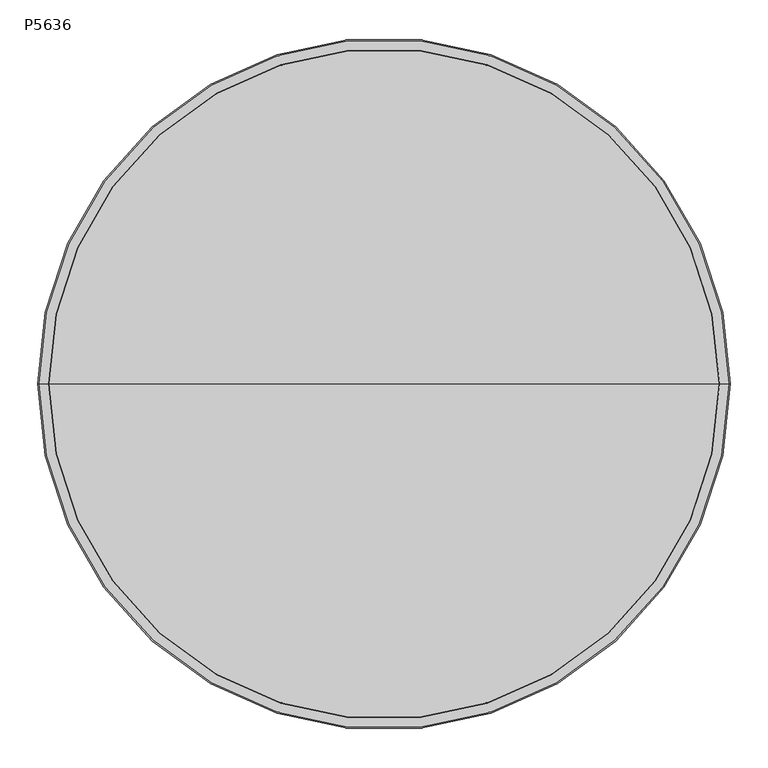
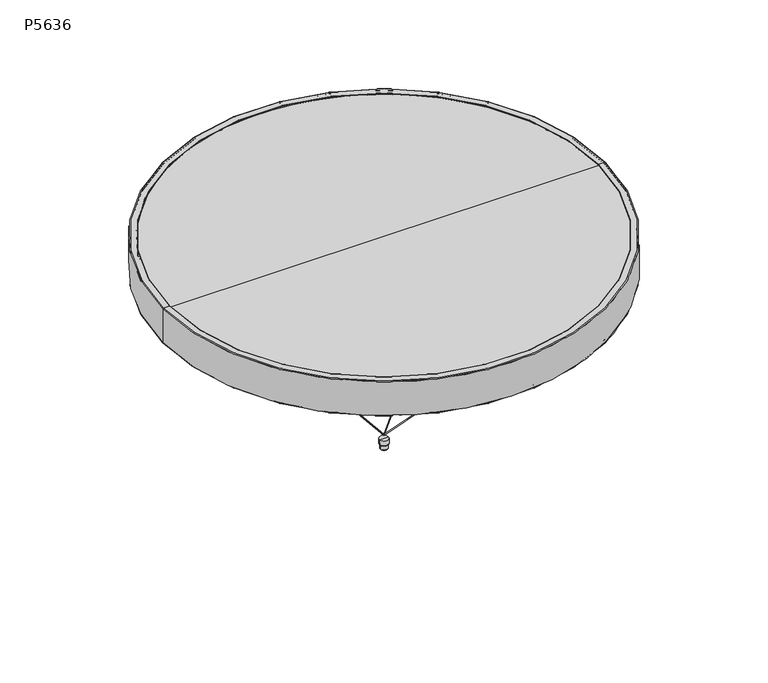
"""IFC4 building model written with IfcOpenShell, lengths in millimetres: light fixture geometry, Impact_Arch_Ltg-waf.r.3 : P5636."""

from ifc_helpers import new_model, si_unit, point, frame, origin, place, context, project, spatial, polyline, circle_curve, ellipse_curve, trimmed, outline, extrude, source, transform, mapped, element, save
from ifc_brep_helpers import plane_surface, cylinder_surface, revolved_surface, advanced_brep


def p5636_05035a62(model_context):
    return source(origin(), model_context, "Body", "SolidModel", [
        extrude(outline(polyline([(-296.904285, 169.2257198), (-302.2657284, 172.2948892), (-301.5940433, 173.4682366), (-296.2325999, 170.3990672), (-296.904285, 169.2257198)])), frame((0.0, 0.0, 2393.70042), z_axis=(0.0, 0.0, 1.0), x_axis=(1.0, 0.0, 0.0)), (0.0, 0.0, 1.0), 10.7885392),
        advanced_brep(
        [(-294.1449367, 168.3838782, 2400.9999313), (-304.1306911, 174.100244, 2400.9999313), (-304.1306911, 174.100244, 2412.4180289), (-294.1449367, 168.3838782, 2412.4180289), (-294.5817908, 168.6339562, 2400.4965621), (-303.693837, 173.8501659, 2400.4965621), (-299.1378139, 171.2420611, 2400.4965621), (-299.1378139, 171.2420611, 2412.4180289)],
        [
            (0, 1, circle_curve(frame((-299.1378139, 171.2420611, 2400.9999313), z_axis=(0.0, 0.0, 1.0), x_axis=(-0.8678602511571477, 0.49680839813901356, 0.0)), 5.7530889)),
            (1, 2),
            (2, 3, circle_curve(frame((-299.1378139, 171.2420611, 2412.4180289), z_axis=(0.0, 0.0, -1.0), x_axis=(-0.8678602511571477, 0.49680839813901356, 0.0)), 5.7530889)),
            (3, 0),
            (1, 0, circle_curve(frame((-299.1378139, 171.2420611, 2400.9999313), z_axis=(0.0, 0.0, 1.0), x_axis=(-0.8678602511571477, 0.49680839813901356, 0.0)), 5.7530889)),
            (3, 2, circle_curve(frame((-299.1378139, 171.2420611, 2412.4180289), z_axis=(0.0, 0.0, -1.0), x_axis=(-0.8678602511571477, 0.49680839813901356, 0.0)), 5.7530889)),
            (4, 5, circle_curve(frame((-299.1378139, 171.2420611, 2400.4965621), z_axis=(0.0, 0.0, 1.0), x_axis=(-0.8678602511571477, 0.49680839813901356, 0.0)), 5.2497197)),
            (5, 1, circle_curve(frame((-303.693837, 173.8501659, 2400.9999313), z_axis=(0.49680839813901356, 0.8678602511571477, 0.0), x_axis=(0.8678602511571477, -0.49680839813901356, 0.0)), 0.5033692)),
            (0, 4, circle_curve(frame((-294.5817908, 168.6339562, 2400.9999313), z_axis=(0.49680839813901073, 0.8678602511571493, 0.0), x_axis=(-0.8678602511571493, 0.49680839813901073, 0.0)), 0.5033692)),
            (5, 4, circle_curve(frame((-299.1378139, 171.2420611, 2400.4965621), z_axis=(0.0, 0.0, 1.0), x_axis=(-0.8678602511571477, 0.49680839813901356, 0.0)), 5.2497197)),
            (6, 5),
            (4, 6),
            (2, 7),
            (7, 3),
        ],
        [
            cylinder_surface(frame((-299.1378139, 171.2420611, 2414.2748214), z_axis=(0.0, 0.0, -1.0), x_axis=(-0.8678602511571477, 0.49680839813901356, 0.0)), 5.7530889),
            revolved_surface(trimmed(ellipse_curve(frame((-303.693837, 173.8501659, 2400.9999313), z_axis=(-0.49680839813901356, -0.8678602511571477, 0.0), x_axis=(0.8678602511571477, -0.49680839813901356, 0.0)), 0.5033692, 0.5033692), [point((-304.1306911, 174.100244, 2400.9999313))], [point((-303.693837, 173.8501659, 2400.4965621))], True, "CARTESIAN"), (-299.1378139, 171.2420611, 2414.2748214), (0.0, 0.0, -1.0)),
            plane_surface(frame((-299.1378139, 171.2420611, 2400.4965621), z_axis=(0.0, 0.0, -1.0), x_axis=(-0.8678602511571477, 0.49680839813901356, 0.0))),
            plane_surface(frame((-299.1378139, 171.2420611, 2412.4180289), z_axis=(0.0, 0.0, 1.0), x_axis=(-0.8678602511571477, 0.49680839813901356, 0.0))),
        ],
        [
            (0, [[1, 2, 3, 4]]),
            (0, [[5, -4, 6, -2]]),
            (1, [[7, 8, -1, 9]]),
            (1, [[10, -9, -5, -8]]),
            (2, [[11, -7, 12]]),
            (2, [[-12, -10, -11]]),
            (3, [[-3, 13, 14]]),
            (3, [[-6, -14, -13]]),
        ],
    ),
        advanced_brep(
        [(-0.4909162, 0.281026, 2046.2396458), (0.4909162, -0.281026, 2047.3533386), (0.0, 0.0, 2046.7964922), (-277.3987743, 158.7975029, 2370.361012), (-276.4169522, 158.2354567, 2371.4746931), (-276.9078632, 158.5164798, 2370.9178526)],
        [
            (0, 1, circle_curve(frame((0.0, 0.0, 2046.7964922), z_axis=(0.60883123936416, -0.3485267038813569, -0.7126385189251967), x_axis=(0.6184706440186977, -0.35404480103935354, 0.7015314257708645)), 0.7937583)),
            (1, 2),
            (2, 0),
            (1, 0, circle_curve(frame((0.0, 0.0, 2046.7964922), z_axis=(0.60883123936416, -0.3485267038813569, -0.7126385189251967), x_axis=(0.6184706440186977, -0.35404480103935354, 0.7015314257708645)), 0.7937583)),
            (3, 4, circle_curve(frame((-276.9078632, 158.5164798, 2370.9178526), z_axis=(0.60883123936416, -0.3485267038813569, -0.7126385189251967), x_axis=(0.6184706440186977, -0.35404480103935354, 0.7015314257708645)), 0.79375)),
            (4, 1),
            (0, 3),
            (4, 3, circle_curve(frame((-276.9078632, 158.5164798, 2370.9178526), z_axis=(0.60883123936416, -0.3485267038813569, -0.7126385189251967), x_axis=(0.6184706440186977, -0.35404480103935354, 0.7015314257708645)), 0.79375)),
            (5, 4),
            (3, 5),
        ],
        [
            plane_surface(frame((0.0, 0.0, 2046.7964922), z_axis=(0.60883123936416, -0.3485267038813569, -0.7126385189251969), x_axis=(0.6184706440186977, -0.35404480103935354, 0.7015314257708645))),
            cylinder_surface(frame((-380.1757258, 217.6323816, 2491.7931491), z_axis=(-0.60883123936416, 0.3485267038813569, 0.7126385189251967), x_axis=(0.6184706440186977, -0.35404480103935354, 0.7015314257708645)), 0.79375),
            plane_surface(frame((-276.9078632, 158.5164798, 2370.9178526), z_axis=(-0.60883123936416, 0.3485267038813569, 0.7126385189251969), x_axis=(0.6184706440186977, -0.35404480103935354, 0.7015314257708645))),
        ],
        [
            (0, [[1, 2, 3]]),
            (0, [[4, -3, -2]]),
            (1, [[5, 6, -1, 7]]),
            (1, [[8, -7, -4, -6]]),
            (2, [[9, -5, 10]]),
            (2, [[-10, -8, -9]]),
        ],
    ),
        advanced_brep(
        [(-278.0124132, 159.1487817, 2369.6649613), (-275.8033133, 157.8841779, 2372.1707438), (-276.9078632, 158.5164798, 2370.9178526), (-282.8450111, 161.9152124, 2375.3215295), (-280.6359113, 160.6506086, 2377.8273121), (-281.7404612, 161.2829105, 2376.5744208)],
        [
            (0, 1, circle_curve(frame((-276.9078632, 158.5164798, 2370.9178526), z_axis=(0.6088312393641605, -0.34852670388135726, -0.712638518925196), x_axis=(0.6184706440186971, -0.35404480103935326, 0.7015314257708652)), 1.7859375)),
            (1, 2),
            (2, 0),
            (1, 0, circle_curve(frame((-276.9078632, 158.5164798, 2370.9178526), z_axis=(0.6088312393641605, -0.34852670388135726, -0.712638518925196), x_axis=(0.6184706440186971, -0.35404480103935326, 0.7015314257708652)), 1.7859375)),
            (3, 4, circle_curve(frame((-281.7404612, 161.2829105, 2376.5744208), z_axis=(0.6088312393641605, -0.34852670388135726, -0.712638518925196), x_axis=(0.6184706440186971, -0.35404480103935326, 0.7015314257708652)), 1.7859375)),
            (4, 1),
            (0, 3),
            (4, 3, circle_curve(frame((-281.7404612, 161.2829105, 2376.5744208), z_axis=(0.6088312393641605, -0.34852670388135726, -0.712638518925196), x_axis=(0.6184706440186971, -0.35404480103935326, 0.7015314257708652)), 1.7859375)),
            (5, 4),
            (3, 5),
        ],
        [
            plane_surface(frame((-276.9078632, 158.5164798, 2370.9178526), z_axis=(0.6088312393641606, -0.3485267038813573, -0.7126385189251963), x_axis=(0.6184706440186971, -0.35404480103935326, 0.7015314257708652))),
            cylinder_surface(frame((-362.9536305, 207.7735575, 2471.6346427), z_axis=(-0.6088312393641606, 0.3485267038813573, 0.7126385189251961), x_axis=(0.6184706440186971, -0.35404480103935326, 0.7015314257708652)), 1.7859375),
            plane_surface(frame((-281.7404612, 161.2829105, 2376.5744208), z_axis=(-0.6088312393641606, 0.3485267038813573, 0.7126385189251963), x_axis=(0.6184706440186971, -0.35404480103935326, 0.7015314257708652))),
        ],
        [
            (0, [[1, 2, 3]]),
            (0, [[4, -3, -2]]),
            (1, [[5, 6, -1, 7]]),
            (1, [[8, -7, -4, -6]]),
            (2, [[9, -5, 10]]),
            (2, [[-10, -8, -9]]),
        ],
    ),
        advanced_brep(
        [(-284.9313832, 163.1095604, 2372.9549571), (-278.5495392, 159.4562606, 2380.1938845), (-281.7404612, 161.2829105, 2376.5744208), (-302.3287359, 173.068711, 2393.3186028), (-295.9468919, 169.4154112, 2400.5575302), (-299.1378139, 171.2420611, 2396.9380665)],
        [
            (0, 1, circle_curve(frame((-281.7404612, 161.2829105, 2376.5744208), z_axis=(0.6088312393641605, -0.34852670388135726, -0.712638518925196), x_axis=(0.6184706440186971, -0.3540448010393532, 0.7015314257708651)), 5.159375)),
            (1, 2),
            (2, 0),
            (1, 0, circle_curve(frame((-281.7404612, 161.2829105, 2376.5744208), z_axis=(0.6088312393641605, -0.34852670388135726, -0.712638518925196), x_axis=(0.6184706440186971, -0.3540448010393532, 0.7015314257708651)), 5.159375)),
            (3, 4, circle_curve(frame((-299.1378139, 171.2420611, 2396.9380665), z_axis=(0.6088312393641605, -0.34852670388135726, -0.712638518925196), x_axis=(0.6184706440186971, -0.3540448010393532, 0.7015314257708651)), 5.159375)),
            (4, 1),
            (0, 3),
            (4, 3, circle_curve(frame((-299.1378139, 171.2420611, 2396.9380665), z_axis=(0.6088312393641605, -0.34852670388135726, -0.712638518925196), x_axis=(0.6184706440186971, -0.3540448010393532, 0.7015314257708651)), 5.159375)),
            (5, 4),
            (3, 5),
        ],
        [
            plane_surface(frame((-281.7404612, 161.2829105, 2376.5744208), z_axis=(0.6088312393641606, -0.3485267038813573, -0.7126385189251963), x_axis=(0.6184706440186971, -0.35404480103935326, 0.7015314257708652))),
            cylinder_surface(frame((-269.0644376, 154.0264945, 2361.7371028), z_axis=(-0.6088312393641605, 0.34852670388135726, 0.712638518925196), x_axis=(0.6184706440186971, -0.3540448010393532, 0.7015314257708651)), 5.159375),
            plane_surface(frame((-299.1378139, 171.2420611, 2396.9380665), z_axis=(-0.6088312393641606, 0.3485267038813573, 0.7126385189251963), x_axis=(0.6184706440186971, -0.35404480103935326, 0.7015314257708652))),
        ],
        [
            (0, [[1, 2, 3]]),
            (0, [[4, -3, -2]]),
            (1, [[5, 6, -1, 7]]),
            (1, [[8, -7, -4, -6]]),
            (2, [[9, -5, 10]]),
            (2, [[-10, -8, -9]]),
        ],
    ),
        extrude(outline(polyline([(294.3688179, 173.5986685), (299.6960381, 176.726863), (300.3806409, 175.5610054), (295.0534207, 172.4328109), (294.3688179, 173.5986685)])), frame((0.0, 0.0, 2393.70042), z_axis=(0.0, 0.0, 1.0), x_axis=(1.0, 0.0, 0.0)), (0.0, 0.0, 1.0), 10.7885392),
        advanced_brep(
        [(292.2673496, 171.6221738, 2400.9999313), (302.1893629, 177.4484746, 2400.9999313), (302.1893629, 177.4484746, 2412.4180289), (292.2673496, 171.6221738, 2412.4180289), (292.7014152, 171.8770613, 2400.4965621), (301.7552973, 177.1935872, 2400.4965621), (297.2283563, 174.5353242, 2400.4965621), (297.2283563, 174.5353242, 2412.4180289)],
        [
            (0, 1, circle_curve(frame((297.2283563, 174.5353242, 2400.9999313), z_axis=(0.0, 0.0, 1.0), x_axis=(0.862320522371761, 0.5063628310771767, 0.0)), 5.7530889)),
            (1, 2),
            (2, 3, circle_curve(frame((297.2283563, 174.5353242, 2412.4180289), z_axis=(0.0, 0.0, -1.0), x_axis=(0.862320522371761, 0.5063628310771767, 0.0)), 5.7530889)),
            (3, 0),
            (1, 0, circle_curve(frame((297.2283563, 174.5353242, 2400.9999313), z_axis=(0.0, 0.0, 1.0), x_axis=(0.862320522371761, 0.5063628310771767, 0.0)), 5.7530889)),
            (3, 2, circle_curve(frame((297.2283563, 174.5353242, 2412.4180289), z_axis=(0.0, 0.0, -1.0), x_axis=(0.862320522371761, 0.5063628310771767, 0.0)), 5.7530889)),
            (4, 5, circle_curve(frame((297.2283563, 174.5353242, 2400.4965621), z_axis=(0.0, 0.0, 1.0), x_axis=(0.862320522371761, 0.5063628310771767, 0.0)), 5.2497197)),
            (5, 1, circle_curve(frame((301.7552973, 177.1935872, 2400.9999313), z_axis=(0.5063628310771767, -0.862320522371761, 0.0), x_axis=(-0.862320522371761, -0.5063628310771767, 0.0)), 0.5033692)),
            (0, 4, circle_curve(frame((292.7014152, 171.8770613, 2400.9999313), z_axis=(0.5063628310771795, -0.8623205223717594, 0.0), x_axis=(0.8623205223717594, 0.5063628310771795, 0.0)), 0.5033692)),
            (5, 4, circle_curve(frame((297.2283563, 174.5353242, 2400.4965621), z_axis=(0.0, 0.0, 1.0), x_axis=(0.862320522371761, 0.5063628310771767, 0.0)), 5.2497197)),
            (6, 5),
            (4, 6),
            (2, 7),
            (7, 3),
        ],
        [
            cylinder_surface(frame((297.2283563, 174.5353242, 2414.2748214), z_axis=(0.0, 0.0, -1.0), x_axis=(0.862320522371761, 0.5063628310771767, 0.0)), 5.7530889),
            revolved_surface(trimmed(ellipse_curve(frame((301.7552973, 177.1935872, 2400.9999313), z_axis=(-0.5063628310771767, 0.862320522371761, 0.0), x_axis=(-0.862320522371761, -0.5063628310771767, 0.0)), 0.5033692, 0.5033692), [point((302.1893629, 177.4484746, 2400.9999313))], [point((301.7552973, 177.1935872, 2400.4965621))], True, "CARTESIAN"), (297.2283563, 174.5353242, 2414.2748214), (0.0, 0.0, -1.0)),
            plane_surface(frame((297.2283563, 174.5353242, 2400.4965621), z_axis=(0.0, 0.0, -1.0000000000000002), x_axis=(0.862320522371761, 0.5063628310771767, 0.0))),
            plane_surface(frame((297.2283563, 174.5353242, 2412.4180289), z_axis=(0.0, 0.0, 1.0000000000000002), x_axis=(0.862320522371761, 0.5063628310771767, 0.0))),
        ],
        [
            (0, [[1, 2, 3, 4]]),
            (0, [[5, -4, 6, -2]]),
            (1, [[7, 8, -1, 9]]),
            (1, [[10, -9, -5, -8]]),
            (2, [[11, -7, 12]]),
            (2, [[-12, -10, -11]]),
            (3, [[-3, 13, 14]]),
            (3, [[-6, -14, -13]]),
        ],
    ),
        advanced_brep(
        [(0.4877826, 0.2864306, 2046.2396458), (-0.4877826, -0.2864306, 2047.3533386), (0.0, 0.0, 2046.7964922), (275.6280814, 161.8514369, 2370.361012), (274.6525265, 161.2785817, 2371.4746931), (275.1403039, 161.5650093, 2370.9178526)],
        [
            (0, 1, circle_curve(frame((0.0, 0.0, 2046.7964922), z_axis=(-0.6049449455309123, -0.35522943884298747, -0.7126385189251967), x_axis=(-0.6145228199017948, -0.3608536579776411, 0.7015314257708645)), 0.7937583)),
            (1, 2),
            (2, 0),
            (1, 0, circle_curve(frame((0.0, 0.0, 2046.7964922), z_axis=(-0.6049449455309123, -0.35522943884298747, -0.7126385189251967), x_axis=(-0.6145228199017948, -0.3608536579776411, 0.7015314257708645)), 0.7937583)),
            (3, 4, circle_curve(frame((275.1403039, 161.5650093, 2370.9178526), z_axis=(-0.6049449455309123, -0.35522943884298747, -0.7126385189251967), x_axis=(-0.6145228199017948, -0.3608536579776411, 0.7015314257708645)), 0.79375)),
            (4, 1),
            (0, 3),
            (4, 3, circle_curve(frame((275.1403039, 161.5650093, 2370.9178526), z_axis=(-0.6049449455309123, -0.35522943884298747, -0.7126385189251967), x_axis=(-0.6145228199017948, -0.3608536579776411, 0.7015314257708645)), 0.79375)),
            (5, 4),
            (3, 5),
        ],
        [
            plane_surface(frame((0.0, 0.0, 2046.7964922), z_axis=(-0.6049449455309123, -0.35522943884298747, -0.7126385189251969), x_axis=(-0.6145228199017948, -0.3608536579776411, 0.7015314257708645))),
            cylinder_surface(frame((377.7489867, 221.817806, 2491.7931491), z_axis=(0.6049449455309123, 0.35522943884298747, 0.7126385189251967), x_axis=(-0.6145228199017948, -0.3608536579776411, 0.7015314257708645)), 0.79375),
            plane_surface(frame((275.1403039, 161.5650093, 2370.9178526), z_axis=(0.6049449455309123, 0.35522943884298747, 0.7126385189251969), x_axis=(-0.6145228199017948, -0.3608536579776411, 0.7015314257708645))),
        ],
        [
            (0, [[1, 2, 3]]),
            (0, [[4, -3, -2]]),
            (1, [[5, 6, -1, 7]]),
            (1, [[8, -7, -4, -6]]),
            (2, [[9, -5, 10]]),
            (2, [[-10, -8, -9]]),
        ],
    ),
        advanced_brep(
        [(276.2378033, 162.2094714, 2369.6649613), (274.0428046, 160.9205473, 2372.1707438), (275.1403039, 161.5650093, 2370.9178526), (281.0395538, 165.0291051, 2375.3215295), (278.8445551, 163.7401809, 2377.8273121), (279.9420545, 164.384643, 2376.5744208)],
        [
            (0, 1, circle_curve(frame((275.1403039, 161.5650093, 2370.9178526), z_axis=(-0.6049449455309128, -0.3552294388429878, -0.712638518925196), x_axis=(-0.6145228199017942, -0.3608536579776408, 0.7015314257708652)), 1.7859375)),
            (1, 2),
            (2, 0),
            (1, 0, circle_curve(frame((275.1403039, 161.5650093, 2370.9178526), z_axis=(-0.6049449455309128, -0.3552294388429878, -0.712638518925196), x_axis=(-0.6145228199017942, -0.3608536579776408, 0.7015314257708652)), 1.7859375)),
            (3, 4, circle_curve(frame((279.9420545, 164.384643, 2376.5744208), z_axis=(-0.6049449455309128, -0.3552294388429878, -0.712638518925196), x_axis=(-0.6145228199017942, -0.3608536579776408, 0.7015314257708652)), 1.7859375)),
            (4, 1),
            (0, 3),
            (4, 3, circle_curve(frame((279.9420545, 164.384643, 2376.5744208), z_axis=(-0.6049449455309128, -0.3552294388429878, -0.712638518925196), x_axis=(-0.6145228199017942, -0.3608536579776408, 0.7015314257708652)), 1.7859375)),
            (5, 4),
            (3, 5),
        ],
        [
            plane_surface(frame((275.1403039, 161.5650093, 2370.9178526), z_axis=(-0.6049449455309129, -0.35522943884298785, -0.7126385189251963), x_axis=(-0.6145228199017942, -0.3608536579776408, 0.7015314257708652))),
            cylinder_surface(frame((360.6368235, 211.7693807, 2471.6346427), z_axis=(0.6049449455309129, 0.35522943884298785, 0.7126385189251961), x_axis=(-0.6145228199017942, -0.3608536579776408, 0.7015314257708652)), 1.7859375),
            plane_surface(frame((279.9420545, 164.384643, 2376.5744208), z_axis=(0.6049449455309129, 0.35522943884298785, 0.7126385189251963), x_axis=(-0.6145228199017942, -0.3608536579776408, 0.7015314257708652))),
        ],
        [
            (0, [[1, 2, 3]]),
            (0, [[4, -3, -2]]),
            (1, [[5, 6, -1, 7]]),
            (1, [[8, -7, -4, -6]]),
            (2, [[9, -5, 10]]),
            (2, [[-10, -8, -9]]),
        ],
    ),
        advanced_brep(
        [(283.1126081, 166.2464224, 2372.9549571), (276.7715008, 162.5228637, 2380.1938845), (279.9420545, 164.384643, 2376.5744208), (300.3989099, 176.3971036, 2393.3186028), (294.0578026, 172.6735449, 2400.5575302), (297.2283563, 174.5353242, 2396.9380665)],
        [
            (0, 1, circle_curve(frame((279.9420545, 164.384643, 2376.5744208), z_axis=(-0.6049449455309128, -0.3552294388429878, -0.712638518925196), x_axis=(-0.6145228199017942, -0.36085365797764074, 0.7015314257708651)), 5.159375)),
            (1, 2),
            (2, 0),
            (1, 0, circle_curve(frame((279.9420545, 164.384643, 2376.5744208), z_axis=(-0.6049449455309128, -0.3552294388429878, -0.712638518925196), x_axis=(-0.6145228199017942, -0.36085365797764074, 0.7015314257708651)), 5.159375)),
            (3, 4, circle_curve(frame((297.2283563, 174.5353242, 2396.9380665), z_axis=(-0.6049449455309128, -0.3552294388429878, -0.712638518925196), x_axis=(-0.6145228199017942, -0.36085365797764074, 0.7015314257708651)), 5.159375)),
            (4, 1),
            (0, 3),
            (4, 3, circle_curve(frame((297.2283563, 174.5353242, 2396.9380665), z_axis=(-0.6049449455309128, -0.3552294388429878, -0.712638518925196), x_axis=(-0.6145228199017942, -0.36085365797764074, 0.7015314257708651)), 5.159375)),
            (5, 4),
            (3, 5),
        ],
        [
            plane_surface(frame((279.9420545, 164.384643, 2376.5744208), z_axis=(-0.6049449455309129, -0.35522943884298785, -0.7126385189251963), x_axis=(-0.6145228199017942, -0.3608536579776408, 0.7015314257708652))),
            cylinder_surface(frame((267.3469445, 156.9886744, 2361.7371028), z_axis=(0.6049449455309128, 0.3552294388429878, 0.712638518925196), x_axis=(-0.6145228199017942, -0.36085365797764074, 0.7015314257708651)), 5.159375),
            plane_surface(frame((297.2283563, 174.5353242, 2396.9380665), z_axis=(0.6049449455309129, 0.35522943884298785, 0.7126385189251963), x_axis=(-0.6145228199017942, -0.3608536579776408, 0.7015314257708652))),
        ],
        [
            (0, [[1, 2, 3]]),
            (0, [[4, -3, -2]]),
            (1, [[5, 6, -1, 7]]),
            (1, [[8, -7, -4, -6]]),
            (2, [[9, -5, 10]]),
            (2, [[-10, -8, -9]]),
        ],
    ),
        extrude(outline(polyline([(0.6402665, -341.7441861), (0.6402665, -347.9219589), (-0.7117338, -347.9219589), (-0.7117338, -341.7441861), (0.6402665, -341.7441861)])), frame((0.0, 0.0, 2393.70042), z_axis=(0.0, 0.0, 1.0), x_axis=(1.0, 0.0, 0.0)), (0.0, 0.0, 1.0), 10.7885392),
        advanced_brep(
        [(0.0, -338.9312234, 2400.9999313), (0.0, -350.4374013, 2400.9999313), (0.0, -350.4374013, 2412.4180289), (0.0, -338.9312234, 2412.4180289), (0.0, -339.4345926, 2400.4965621), (0.0, -349.9340321, 2400.4965621), (0.0, -344.6843123, 2400.4965621), (0.0, -344.6843123, 2412.4180289)],
        [
            (0, 1, circle_curve(frame((0.0, -344.6843123, 2400.9999313), z_axis=(0.0, 0.0, 1.0), x_axis=(0.0, -1.0, 0.0)), 5.7530889)),
            (1, 2),
            (2, 3, circle_curve(frame((0.0, -344.6843123, 2412.4180289), z_axis=(0.0, 0.0, -1.0), x_axis=(0.0, -1.0, 0.0)), 5.7530889)),
            (3, 0),
            (1, 0, circle_curve(frame((0.0, -344.6843123, 2400.9999313), z_axis=(0.0, 0.0, 1.0), x_axis=(0.0, -1.0, 0.0)), 5.7530889)),
            (3, 2, circle_curve(frame((0.0, -344.6843123, 2412.4180289), z_axis=(0.0, 0.0, -1.0), x_axis=(0.0, -1.0, 0.0)), 5.7530889)),
            (4, 5, circle_curve(frame((0.0, -344.6843123, 2400.4965621), z_axis=(0.0, 0.0, 1.0), x_axis=(0.0, -1.0, 0.0)), 5.2497197)),
            (5, 1, circle_curve(frame((0.0, -349.9340321, 2400.9999313), z_axis=(-1.0, 0.0, 0.0), x_axis=(0.0, 1.0, 0.0)), 0.5033692)),
            (0, 4, circle_curve(frame((0.0, -339.4345926, 2400.9999313), z_axis=(-1.0, 0.0, 0.0), x_axis=(0.0, -1.0, 0.0)), 0.5033692)),
            (5, 4, circle_curve(frame((0.0, -344.6843123, 2400.4965621), z_axis=(0.0, 0.0, 1.0), x_axis=(0.0, -1.0, 0.0)), 5.2497197)),
            (6, 5),
            (4, 6),
            (2, 7),
            (7, 3),
        ],
        [
            cylinder_surface(frame((0.0, -344.6843123, 2414.2748214), z_axis=(0.0, 0.0, -1.0), x_axis=(0.0, -1.0, 0.0)), 5.7530889),
            revolved_surface(trimmed(ellipse_curve(frame((0.0, -349.9340321, 2400.9999313), z_axis=(1.0, 0.0, 0.0), x_axis=(0.0, 1.0, 0.0)), 0.5033692, 0.5033692), [point((0.0, -350.4374013, 2400.9999313))], [point((0.0, -349.9340321, 2400.4965621))], True, "CARTESIAN"), (0.0, -344.6843123, 2414.2748214), (0.0, 0.0, -1.0)),
            plane_surface(frame((0.0, -344.6843123, 2400.4965621), z_axis=(0.0, 0.0, -1.0), x_axis=(0.0, -1.0, 0.0))),
            plane_surface(frame((0.0, -344.6843123, 2412.4180289), z_axis=(0.0, 0.0, 1.0), x_axis=(0.0, -1.0, 0.0))),
        ],
        [
            (0, [[1, 2, 3, 4]]),
            (0, [[5, -4, 6, -2]]),
            (1, [[7, 8, -1, 9]]),
            (1, [[10, -9, -5, -8]]),
            (2, [[11, -7, 12]]),
            (2, [[-12, -10, -11]]),
            (3, [[-3, 13, 14]]),
            (3, [[-6, -14, -13]]),
        ],
    ),
        advanced_brep(
        [(0.0, -0.5656628, 2046.2396458), (0.0, 0.5656628, 2047.3533386), (0.0, 0.0, 2046.7964922), (0.0, -319.635303, 2370.361012), (0.0, -318.5039893, 2371.4746931), (0.0, -319.0696462, 2370.9178526)],
        [
            (0, 1, circle_curve(frame((0.0, 0.0, 2046.7964922), z_axis=(0.0, 0.7015314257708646, -0.7126385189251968), x_axis=(0.0, 0.7126385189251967, 0.7015314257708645)), 0.7937583)),
            (1, 2),
            (2, 0),
            (1, 0, circle_curve(frame((0.0, 0.0, 2046.7964922), z_axis=(0.0, 0.7015314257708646, -0.7126385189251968), x_axis=(0.0, 0.7126385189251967, 0.7015314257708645)), 0.7937583)),
            (3, 4, circle_curve(frame((0.0, -319.0696462, 2370.9178526), z_axis=(0.0, 0.7015314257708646, -0.7126385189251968), x_axis=(0.0, 0.7126385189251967, 0.7015314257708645)), 0.79375)),
            (4, 1),
            (0, 3),
            (4, 3, circle_curve(frame((0.0, -319.0696462, 2370.9178526), z_axis=(0.0, 0.7015314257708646, -0.7126385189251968), x_axis=(0.0, 0.7126385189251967, 0.7015314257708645)), 0.79375)),
            (5, 4),
            (3, 5),
        ],
        [
            plane_surface(frame((0.0, 0.0, 2046.7964922), z_axis=(0.0, 0.7015314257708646, -0.7126385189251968), x_axis=(0.0, 0.7126385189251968, 0.7015314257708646))),
            cylinder_surface(frame((0.0, -438.0609957, 2491.7931491), z_axis=(0.0, -0.7015314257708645, 0.7126385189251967), x_axis=(0.0, 0.7126385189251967, 0.7015314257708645)), 0.79375),
            plane_surface(frame((0.0, -319.0696462, 2370.9178526), z_axis=(0.0, -0.7015314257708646, 0.7126385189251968), x_axis=(0.0, 0.7126385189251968, 0.7015314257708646))),
        ],
        [
            (0, [[1, 2, 3]]),
            (0, [[4, -3, -2]]),
            (1, [[5, 6, -1, 7]]),
            (1, [[8, -7, -4, -6]]),
            (2, [[9, -5, 10]]),
            (2, [[-10, -8, -9]]),
        ],
    ),
        advanced_brep(
        [(0.0, -320.342374, 2369.6649613), (0.0, -317.7969183, 2372.1707438), (0.0, -319.0696462, 2370.9178526), (0.0, -325.9107797, 2375.3215295), (0.0, -323.365324, 2377.8273121), (0.0, -324.6380518, 2376.5744208)],
        [
            (0, 1, circle_curve(frame((0.0, -319.0696462, 2370.9178526), z_axis=(0.0, 0.7015314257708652, -0.7126385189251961), x_axis=(0.0, 0.7126385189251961, 0.7015314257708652)), 1.7859375)),
            (1, 2),
            (2, 0),
            (1, 0, circle_curve(frame((0.0, -319.0696462, 2370.9178526), z_axis=(0.0, 0.7015314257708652, -0.7126385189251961), x_axis=(0.0, 0.7126385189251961, 0.7015314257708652)), 1.7859375)),
            (3, 4, circle_curve(frame((0.0, -324.6380518, 2376.5744208), z_axis=(0.0, 0.7015314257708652, -0.7126385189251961), x_axis=(0.0, 0.7126385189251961, 0.7015314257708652)), 1.7859375)),
            (4, 1),
            (0, 3),
            (4, 3, circle_curve(frame((0.0, -324.6380518, 2376.5744208), z_axis=(0.0, 0.7015314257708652, -0.7126385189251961), x_axis=(0.0, 0.7126385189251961, 0.7015314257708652)), 1.7859375)),
            (5, 4),
            (3, 5),
        ],
        [
            plane_surface(frame((0.0, -319.0696462, 2370.9178526), z_axis=(0.0, 0.7015314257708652, -0.7126385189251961), x_axis=(0.0, 0.7126385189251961, 0.7015314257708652))),
            cylinder_surface(frame((0.0, -418.2166772, 2471.6346427), z_axis=(0.0, -0.7015314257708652, 0.7126385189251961), x_axis=(0.0, 0.7126385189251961, 0.7015314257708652)), 1.7859375),
            plane_surface(frame((0.0, -324.6380518, 2376.5744208), z_axis=(0.0, -0.7015314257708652, 0.7126385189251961), x_axis=(0.0, 0.7126385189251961, 0.7015314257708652))),
        ],
        [
            (0, [[1, 2, 3]]),
            (0, [[4, -3, -2]]),
            (1, [[5, 6, -1, 7]]),
            (1, [[8, -7, -4, -6]]),
            (2, [[9, -5, 10]]),
            (2, [[-10, -8, -9]]),
        ],
    ),
        advanced_brep(
        [(0.0, -328.3148212, 2372.9549571), (0.0, -320.9612825, 2380.1938845), (0.0, -324.6380518, 2376.5744208), (0.0, -348.3610817, 2393.3186028), (0.0, -341.007543, 2400.5575302), (0.0, -344.6843123, 2396.9380665)],
        [
            (0, 1, circle_curve(frame((0.0, -324.6380518, 2376.5744208), z_axis=(0.0, 0.7015314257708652, -0.7126385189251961), x_axis=(0.0, 0.712638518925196, 0.7015314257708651)), 5.159375)),
            (1, 2),
            (2, 0),
            (1, 0, circle_curve(frame((0.0, -324.6380518, 2376.5744208), z_axis=(0.0, 0.7015314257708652, -0.7126385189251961), x_axis=(0.0, 0.712638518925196, 0.7015314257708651)), 5.159375)),
            (3, 4, circle_curve(frame((0.0, -344.6843123, 2396.9380665), z_axis=(0.0, 0.7015314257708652, -0.7126385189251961), x_axis=(0.0, 0.712638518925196, 0.7015314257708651)), 5.159375)),
            (4, 1),
            (0, 3),
            (4, 3, circle_curve(frame((0.0, -344.6843123, 2396.9380665), z_axis=(0.0, 0.7015314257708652, -0.7126385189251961), x_axis=(0.0, 0.712638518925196, 0.7015314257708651)), 5.159375)),
            (5, 4),
            (3, 5),
        ],
        [
            plane_surface(frame((0.0, -324.6380518, 2376.5744208), z_axis=(0.0, 0.7015314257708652, -0.7126385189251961), x_axis=(0.0, 0.7126385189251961, 0.7015314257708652))),
            cylinder_surface(frame((0.0, -310.0319864, 2361.7371028), z_axis=(0.0, -0.7015314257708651, 0.712638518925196), x_axis=(0.0, 0.712638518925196, 0.7015314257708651)), 5.159375),
            plane_surface(frame((0.0, -344.6843123, 2396.9380665), z_axis=(0.0, -0.7015314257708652, 0.7126385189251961), x_axis=(0.0, 0.7126385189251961, 0.7015314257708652))),
        ],
        [
            (0, [[1, 2, 3]]),
            (0, [[4, -3, -2]]),
            (1, [[5, 6, -1, 7]]),
            (1, [[8, -7, -4, -6]]),
            (2, [[9, -5, 10]]),
            (2, [[-10, -8, -9]]),
        ],
    ),
        advanced_brep(
        [(-454.6242615, 0.0, 2413.762), (454.6242615, 0.0, 2413.762), (454.6242615, 0.0, 2411.6538), (-454.6242615, 0.0, 2411.6538), (0.0, 0.0, 2411.6538), (0.0, 0.0, 2413.762)],
        [
            (0, 1, circle_curve(frame((0.0, 0.0, 2413.762), z_axis=(0.0, 0.0, -1.0), x_axis=(1.0, 0.0, 0.0)), 454.6242615)),
            (1, 2),
            (2, 3, circle_curve(frame((0.0, 0.0, 2411.6538), z_axis=(0.0, 0.0, 1.0), x_axis=(1.0, 0.0, 0.0)), 454.6242615)),
            (3, 0),
            (1, 0, circle_curve(frame((0.0, 0.0, 2413.762), z_axis=(0.0, 0.0, -1.0), x_axis=(1.0, 0.0, 0.0)), 454.6242615)),
            (3, 2, circle_curve(frame((0.0, 0.0, 2411.6538), z_axis=(0.0, 0.0, 1.0), x_axis=(1.0, 0.0, 0.0)), 454.6242615)),
            (2, 4),
            (4, 3),
            (5, 1),
            (0, 5),
        ],
        [
            cylinder_surface(frame((0.0, 0.0, 2414.8788161), z_axis=(0.0, 0.0, 1.0), x_axis=(1.0, 0.0, 0.0)), 454.6242615),
            plane_surface(frame((0.0, 0.0, 2411.6538), z_axis=(0.0, 0.0, -1.0), x_axis=(1.0, 0.0, 0.0))),
            plane_surface(frame((0.0, 0.0, 2413.762), z_axis=(0.0, 0.0, 1.0), x_axis=(1.0, 0.0, 0.0))),
        ],
        [
            (0, [[1, 2, 3, 4]]),
            (0, [[5, -4, 6, -2]]),
            (1, [[-3, 7, 8]]),
            (1, [[-6, -8, -7]]),
            (2, [[9, -1, 10]]),
            (2, [[-10, -5, -9]]),
        ],
    ),
        advanced_brep(
        [(-444.696004, 0.0, 2481.326), (444.696004, 0.0, 2481.326), (444.696004, 0.0, 2478.3288), (-444.696004, 0.0, 2478.3288), (0.0, 0.0, 2481.326), (0.0, 0.0, 2478.3288)],
        [
            (0, 1, circle_curve(frame((0.0, 0.0, 2481.326), z_axis=(0.0, 0.0, -1.0), x_axis=(1.0, 0.0, 0.0)), 444.696004)),
            (1, 2),
            (2, 3, circle_curve(frame((0.0, 0.0, 2478.3288), z_axis=(0.0, 0.0, 1.0), x_axis=(1.0, 0.0, 0.0)), 444.696004)),
            (3, 0),
            (1, 0, circle_curve(frame((0.0, 0.0, 2481.326), z_axis=(0.0, 0.0, -1.0), x_axis=(1.0, 0.0, 0.0)), 444.696004)),
            (3, 2, circle_curve(frame((0.0, 0.0, 2478.3288), z_axis=(0.0, 0.0, 1.0), x_axis=(1.0, 0.0, 0.0)), 444.696004)),
            (4, 1),
            (0, 4),
            (2, 5),
            (5, 3),
        ],
        [
            cylinder_surface(frame((0.0, 0.0, 2490.7870462), z_axis=(0.0, 0.0, 1.0), x_axis=(1.0, 0.0, 0.0)), 444.696004),
            plane_surface(frame((0.0, 0.0, 2481.326), z_axis=(0.0, 0.0, 1.0), x_axis=(1.0, 0.0, 0.0))),
            plane_surface(frame((0.0, 0.0, 2478.3288), z_axis=(0.0, 0.0, -1.0), x_axis=(1.0, 0.0, 0.0))),
        ],
        [
            (0, [[1, 2, 3, 4]]),
            (0, [[5, -4, 6, -2]]),
            (1, [[7, -1, 8]]),
            (1, [[-8, -5, -7]]),
            (2, [[-3, 9, 10]]),
            (2, [[-6, -10, -9]]),
        ],
    ),
        advanced_brep(
        [(-300.0172196, 0.0, 2411.1323751), (300.0172196, 0.0, 2411.1323751), (301.6709682, 0.0, 2411.6538), (-301.6709682, 0.0, 2411.6538), (-256.6098362, 0.0, 2380.7381979), (256.6098362, 0.0, 2380.7381979), (-255.0912831, 0.0, 2380.2594), (255.0912831, 0.0, 2380.2594), (0.0, 0.0, 2380.2594), (-255.5511841, 0.0, 2378.6338), (255.5511841, 0.0, 2378.6338), (0.0, 0.0, 2378.6338), (-257.2053499, 0.0, 2379.1553565), (257.2053499, 0.0, 2379.1553565), (-300.8404931, 0.0, 2409.7090127), (300.8404931, 0.0, 2409.7090127), (-301.8528259, 0.0, 2410.0282), (301.8528259, 0.0, 2410.0282), (-314.325, 0.0, 2410.0282), (314.325, 0.0, 2410.0282), (-314.325, 0.0, 2411.6538), (314.325, 0.0, 2411.6538)],
        [
            (0, 1, circle_curve(frame((0.0, 0.0, 2411.1323751), z_axis=(0.0, 0.0, -1.0), x_axis=(1.0, 0.0, 0.0)), 300.0172196)),
            (1, 2, circle_curve(frame((301.6709682, 0.0, 2408.7705773), z_axis=(0.0, 1.0, 0.0), x_axis=(1.0, 0.0, 0.0)), 2.8832227)),
            (2, 3, circle_curve(frame((0.0, 0.0, 2411.6538), z_axis=(0.0, 0.0, 1.0), x_axis=(1.0, 0.0, 0.0)), 301.6709682)),
            (3, 0, circle_curve(frame((-301.6709682, 0.0, 2408.7705773), z_axis=(0.0, 1.0, 0.0), x_axis=(-1.0, 0.0, 0.0)), 2.8832227)),
            (1, 0, circle_curve(frame((0.0, 0.0, 2411.1323751), z_axis=(0.0, 0.0, -1.0), x_axis=(1.0, 0.0, 0.0)), 300.0172196)),
            (3, 2, circle_curve(frame((0.0, 0.0, 2411.6538), z_axis=(0.0, 0.0, 1.0), x_axis=(1.0, 0.0, 0.0)), 301.6709682)),
            (4, 5, circle_curve(frame((0.0, 0.0, 2380.7381979), z_axis=(0.0, 0.0, -1.0), x_axis=(1.0, 0.0, 0.0)), 256.6098362)),
            (5, 1),
            (0, 4),
            (5, 4, circle_curve(frame((0.0, 0.0, 2380.7381979), z_axis=(0.0, 0.0, -1.0), x_axis=(1.0, 0.0, 0.0)), 256.6098362)),
            (6, 7, circle_curve(frame((0.0, 0.0, 2380.2594), z_axis=(0.0, 0.0, -1.0), x_axis=(1.0, 0.0, 0.0)), 255.0912831)),
            (7, 5, circle_curve(frame((255.0912831, 0.0, 2382.9069165), z_axis=(0.0, -1.0, 0.0), x_axis=(1.0, 0.0, 0.0)), 2.6475165)),
            (4, 6, circle_curve(frame((-255.0912831, 0.0, 2382.9069165), z_axis=(0.0, -1.0, 0.0), x_axis=(-1.0, 0.0, 0.0)), 2.6475165)),
            (7, 6, circle_curve(frame((0.0, 0.0, 2380.2594), z_axis=(0.0, 0.0, -1.0), x_axis=(1.0, 0.0, 0.0)), 255.0912831)),
            (8, 7),
            (6, 8),
            (9, 10, circle_curve(frame((0.0, 0.0, 2378.6338), z_axis=(0.0, 0.0, -1.0), x_axis=(1.0, 0.0, 0.0)), 255.5511841)),
            (10, 11),
            (11, 9),
            (10, 9, circle_curve(frame((0.0, 0.0, 2378.6338), z_axis=(0.0, 0.0, -1.0), x_axis=(1.0, 0.0, 0.0)), 255.5511841)),
            (12, 13, circle_curve(frame((0.0, 0.0, 2379.1553565), z_axis=(0.0, 0.0, -1.0), x_axis=(1.0, 0.0, 0.0)), 257.2053499)),
            (13, 10, circle_curve(frame((255.5511841, 0.0, 2381.51775), z_axis=(0.0, 1.0, 0.0), x_axis=(1.0, 0.0, 0.0)), 2.88395)),
            (9, 12, circle_curve(frame((-255.5511841, 0.0, 2381.51775), z_axis=(0.0, 1.0, 0.0), x_axis=(-1.0, 0.0, 0.0)), 2.88395)),
            (13, 12, circle_curve(frame((0.0, 0.0, 2379.1553565), z_axis=(0.0, 0.0, -1.0), x_axis=(1.0, 0.0, 0.0)), 257.2053499)),
            (14, 15, circle_curve(frame((0.0, 0.0, 2409.7090127), z_axis=(0.0, 0.0, -1.0), x_axis=(1.0, 0.0, 0.0)), 300.8404931)),
            (15, 13),
            (12, 14),
            (15, 14, circle_curve(frame((0.0, 0.0, 2409.7090127), z_axis=(0.0, 0.0, -1.0), x_axis=(1.0, 0.0, 0.0)), 300.8404931)),
            (16, 17, circle_curve(frame((0.0, 0.0, 2410.0282), z_axis=(0.0, 0.0, -1.0), x_axis=(1.0, 0.0, 0.0)), 301.8528259)),
            (17, 15, circle_curve(frame((301.8528259, 0.0, 2408.2632517), z_axis=(0.0, -1.0, 0.0), x_axis=(1.0, 0.0, 0.0)), 1.7649483)),
            (14, 16, circle_curve(frame((-301.8528259, 0.0, 2408.2632517), z_axis=(0.0, -1.0, 0.0), x_axis=(-1.0, 0.0, 0.0)), 1.7649483)),
            (17, 16, circle_curve(frame((0.0, 0.0, 2410.0282), z_axis=(0.0, 0.0, -1.0), x_axis=(1.0, 0.0, 0.0)), 301.8528259)),
            (18, 19, circle_curve(frame((0.0, 0.0, 2410.0282), z_axis=(0.0, 0.0, -1.0), x_axis=(1.0, 0.0, 0.0)), 314.325)),
            (19, 17),
            (16, 18),
            (19, 18, circle_curve(frame((0.0, 0.0, 2410.0282), z_axis=(0.0, 0.0, -1.0), x_axis=(1.0, 0.0, 0.0)), 314.325)),
            (20, 21, circle_curve(frame((0.0, 0.0, 2411.6538), z_axis=(0.0, 0.0, -1.0), x_axis=(1.0, 0.0, 0.0)), 314.325)),
            (21, 19),
            (18, 20),
            (21, 20, circle_curve(frame((0.0, 0.0, 2411.6538), z_axis=(0.0, 0.0, -1.0), x_axis=(1.0, 0.0, 0.0)), 314.325)),
            (2, 21),
            (20, 3),
        ],
        [
            revolved_surface(trimmed(ellipse_curve(frame((301.6709682, 0.0, 2408.7705773), z_axis=(0.0, -1.0, 0.0), x_axis=(1.0, 0.0, 0.0)), 2.8832227, 2.8832227), [point((301.6709682, 0.0, 2411.6538))], [point((300.0172196, 0.0, 2411.1323751))], True, "CARTESIAN"), (0.0, 0.0, 2396.5535), (0.0, 0.0, 1.0)),
            revolved_surface(polyline([(300.0172196, 0.0, 2411.1323751), (256.6098362, 0.0, 2380.7381979)]), (0.0, 0.0, 2396.5535), (0.0, 0.0, 1.0)),
            revolved_surface(trimmed(ellipse_curve(frame((255.0912831, 0.0, 2382.9069165), z_axis=(0.0, 1.0, 0.0), x_axis=(1.0, 0.0, 0.0)), 2.6475165, 2.6475165), [point((256.6098362, 0.0, 2380.7381979))], [point((255.0912831, 0.0, 2380.2594))], True, "CARTESIAN"), (0.0, 0.0, 2396.5535), (0.0, 0.0, 1.0)),
            plane_surface(frame((0.0, 0.0, 2380.2594), z_axis=(0.0, 0.0, 1.0), x_axis=(1.0, 0.0, 0.0))),
            plane_surface(frame((0.0, 0.0, 2378.6338), z_axis=(0.0, 0.0, -1.0), x_axis=(1.0, 0.0, 0.0))),
            revolved_surface(trimmed(ellipse_curve(frame((255.5511841, 0.0, 2381.51775), z_axis=(0.0, -1.0, 0.0), x_axis=(1.0, 0.0, 0.0)), 2.88395, 2.88395), [point((255.5511841, 0.0, 2378.6338))], [point((257.2053499, 0.0, 2379.1553565))], True, "CARTESIAN"), (0.0, 0.0, 2396.5535), (0.0, 0.0, 1.0)),
            revolved_surface(polyline([(257.2053499, 0.0, 2379.1553565), (300.8404931, 0.0, 2409.7090127)]), (0.0, 0.0, 2396.5535), (0.0, 0.0, 1.0)),
            revolved_surface(trimmed(ellipse_curve(frame((301.8528259, 0.0, 2408.2632517), z_axis=(0.0, 1.0, 0.0), x_axis=(1.0, 0.0, 0.0)), 1.7649483, 1.7649483), [point((300.8404931, 0.0, 2409.7090127))], [point((301.8528259, 0.0, 2410.0282))], True, "CARTESIAN"), (0.0, 0.0, 2396.5535), (0.0, 0.0, 1.0)),
            plane_surface(frame((0.0, 0.0, 2410.0282), z_axis=(0.0, 0.0, -1.0), x_axis=(1.0, 0.0, 0.0))),
            cylinder_surface(frame((0.0, 0.0, 2396.5535), z_axis=(0.0, 0.0, 1.0), x_axis=(1.0, 0.0, 0.0)), 314.325),
            plane_surface(frame((0.0, 0.0, 2411.6538), z_axis=(0.0, 0.0, 1.0), x_axis=(1.0, 0.0, 0.0))),
        ],
        [
            (0, [[1, 2, 3, 4]]),
            (0, [[5, -4, 6, -2]]),
            (1, [[7, 8, -1, 9]]),
            (1, [[10, -9, -5, -8]]),
            (2, [[11, 12, -7, 13]]),
            (2, [[14, -13, -10, -12]]),
            (3, [[15, -11, 16]]),
            (3, [[-16, -14, -15]]),
            (4, [[17, 18, 19]]),
            (4, [[20, -19, -18]]),
            (5, [[21, 22, -17, 23]]),
            (5, [[24, -23, -20, -22]]),
            (6, [[25, 26, -21, 27]]),
            (6, [[28, -27, -24, -26]]),
            (7, [[29, 30, -25, 31]]),
            (7, [[32, -31, -28, -30]]),
            (8, [[33, 34, -29, 35]]),
            (8, [[36, -35, -32, -34]]),
            (9, [[37, 38, -33, 39]]),
            (9, [[40, -39, -36, -38]]),
            (10, [[-3, 41, -37, 42]]),
            (10, [[-6, -42, -40, -41]]),
        ],
    ),
        advanced_brep(
        [(-454.0192171, 0.0, 2481.3271471), (454.0192171, 0.0, 2481.3271471), (443.1969575, 0.0, 2481.3271471), (-443.1969575, 0.0, 2481.3271471), (-454.6242615, 0.0, 2480.7221027), (454.6242615, 0.0, 2480.7221027), (-454.6242615, 0.0, 2407.666), (454.6242615, 0.0, 2407.666), (-455.8792663, 0.0, 2407.666), (455.8792663, 0.0, 2407.666), (-457.2, 0.0, 2408.9867337), (457.2, 0.0, 2408.9867337), (-457.2, 0.0, 2482.5734421), (457.2, 0.0, 2482.5734421), (-455.9074421, 0.0, 2483.866), (455.9074421, 0.0, 2483.866), (-443.1885371, 0.0, 2483.866), (443.1885371, 0.0, 2483.866), (-442.6906432, 0.0, 2481.8334614), (442.6906432, 0.0, 2481.8334614), (442.6906432, 0.0, 2483.3681061), (-442.6906432, 0.0, 2483.3681061)],
        [
            (0, 1, circle_curve(frame((0.0, 0.0, 2481.3271471), z_axis=(0.0, 0.0, -1.0), x_axis=(1.0, 0.0, 0.0)), 454.0192171)),
            (1, 2),
            (2, 3, circle_curve(frame((0.0, 0.0, 2481.3271471), z_axis=(0.0, 0.0, 1.0), x_axis=(1.0, 0.0, 0.0)), 443.1969575)),
            (3, 0),
            (1, 0, circle_curve(frame((0.0, 0.0, 2481.3271471), z_axis=(0.0, 0.0, -1.0), x_axis=(1.0, 0.0, 0.0)), 454.0192171)),
            (3, 2, circle_curve(frame((0.0, 0.0, 2481.3271471), z_axis=(0.0, 0.0, 1.0), x_axis=(1.0, 0.0, 0.0)), 443.1969575)),
            (4, 5, circle_curve(frame((0.0, 0.0, 2480.7221027), z_axis=(0.0, 0.0, -1.0), x_axis=(1.0, 0.0, 0.0)), 454.6242615)),
            (5, 1, circle_curve(frame((454.0192171, 0.0, 2480.7221027), z_axis=(0.0, -1.0, 0.0), x_axis=(1.0, 0.0, 0.0)), 0.6050444)),
            (0, 4, circle_curve(frame((-454.0192171, 0.0, 2480.7221027), z_axis=(0.0, -1.0, 0.0), x_axis=(-1.0, 0.0, 0.0)), 0.6050444)),
            (5, 4, circle_curve(frame((0.0, 0.0, 2480.7221027), z_axis=(0.0, 0.0, -1.0), x_axis=(1.0, 0.0, 0.0)), 454.6242615)),
            (6, 7, circle_curve(frame((0.0, 0.0, 2407.666), z_axis=(0.0, 0.0, -1.0), x_axis=(1.0, 0.0, 0.0)), 454.6242615)),
            (7, 5),
            (4, 6),
            (7, 6, circle_curve(frame((0.0, 0.0, 2407.666), z_axis=(0.0, 0.0, -1.0), x_axis=(1.0, 0.0, 0.0)), 454.6242615)),
            (8, 9, circle_curve(frame((0.0, 0.0, 2407.666), z_axis=(0.0, 0.0, -1.0), x_axis=(1.0, 0.0, 0.0)), 455.8792663)),
            (9, 7),
            (6, 8),
            (9, 8, circle_curve(frame((0.0, 0.0, 2407.666), z_axis=(0.0, 0.0, -1.0), x_axis=(1.0, 0.0, 0.0)), 455.8792663)),
            (10, 11, circle_curve(frame((0.0, 0.0, 2408.9867337), z_axis=(0.0, 0.0, -1.0), x_axis=(1.0, 0.0, 0.0)), 457.2)),
            (11, 9, circle_curve(frame((455.8792663, 0.0, 2408.9867337), z_axis=(0.0, 1.0, 0.0), x_axis=(1.0, 0.0, 0.0)), 1.3207337)),
            (8, 10, circle_curve(frame((-455.8792663, 0.0, 2408.9867337), z_axis=(0.0, 1.0, 0.0), x_axis=(-1.0, 0.0, 0.0)), 1.3207337)),
            (11, 10, circle_curve(frame((0.0, 0.0, 2408.9867337), z_axis=(0.0, 0.0, -1.0), x_axis=(1.0, 0.0, 0.0)), 457.2)),
            (12, 13, circle_curve(frame((0.0, 0.0, 2482.5734421), z_axis=(0.0, 0.0, -1.0), x_axis=(1.0, 0.0, 0.0)), 457.2)),
            (13, 11),
            (10, 12),
            (13, 12, circle_curve(frame((0.0, 0.0, 2482.5734421), z_axis=(0.0, 0.0, -1.0), x_axis=(1.0, 0.0, 0.0)), 457.2)),
            (14, 15, circle_curve(frame((0.0, 0.0, 2483.866), z_axis=(0.0, 0.0, -1.0), x_axis=(1.0, 0.0, 0.0)), 455.9074421)),
            (15, 13, circle_curve(frame((455.9074421, 0.0, 2482.5734421), z_axis=(0.0, 1.0, 0.0), x_axis=(1.0, 0.0, 0.0)), 1.2925579)),
            (12, 14, circle_curve(frame((-455.9074421, 0.0, 2482.5734421), z_axis=(0.0, 1.0, 0.0), x_axis=(-1.0, 0.0, 0.0)), 1.2925579)),
            (15, 14, circle_curve(frame((0.0, 0.0, 2483.866), z_axis=(0.0, 0.0, -1.0), x_axis=(1.0, 0.0, 0.0)), 455.9074421)),
            (16, 17, circle_curve(frame((0.0, 0.0, 2483.866), z_axis=(0.0, 0.0, -1.0), x_axis=(1.0, 0.0, 0.0)), 443.1885371)),
            (17, 15),
            (14, 16),
            (17, 16, circle_curve(frame((0.0, 0.0, 2483.866), z_axis=(0.0, 0.0, -1.0), x_axis=(1.0, 0.0, 0.0)), 443.1885371)),
            (18, 19, circle_curve(frame((0.0, 0.0, 2481.8334614), z_axis=(0.0, 0.0, -1.0), x_axis=(1.0, 0.0, 0.0)), 442.6906432)),
            (19, 20),
            (20, 21, circle_curve(frame((0.0, 0.0, 2483.3681061), z_axis=(0.0, 0.0, 1.0), x_axis=(1.0, 0.0, 0.0)), 442.6906432)),
            (21, 18),
            (19, 18, circle_curve(frame((0.0, 0.0, 2481.8334614), z_axis=(0.0, 0.0, -1.0), x_axis=(1.0, 0.0, 0.0)), 442.6906432)),
            (21, 20, circle_curve(frame((0.0, 0.0, 2483.3681061), z_axis=(0.0, 0.0, 1.0), x_axis=(1.0, 0.0, 0.0)), 442.6906432)),
            (2, 19, circle_curve(frame((443.1969575, 0.0, 2481.8334614), z_axis=(0.0, 1.0, 0.0), x_axis=(1.0, 0.0, 0.0)), 0.5063143)),
            (18, 3, circle_curve(frame((-443.1969575, 0.0, 2481.8334614), z_axis=(0.0, 1.0, 0.0), x_axis=(-1.0, 0.0, 0.0)), 0.5063143)),
            (20, 17, circle_curve(frame((443.1885371, 0.0, 2483.3681061), z_axis=(0.0, 1.0, 0.0), x_axis=(1.0, 0.0, 0.0)), 0.4978939)),
            (16, 21, circle_curve(frame((-443.1885371, 0.0, 2483.3681061), z_axis=(0.0, 1.0, 0.0), x_axis=(-1.0, 0.0, 0.0)), 0.4978939)),
        ],
        [
            plane_surface(frame((0.0, 0.0, 2481.3271471), z_axis=(0.0, 0.0, -1.0), x_axis=(1.0, 0.0, 0.0))),
            revolved_surface(trimmed(ellipse_curve(frame((454.0192171, 0.0, 2480.7221027), z_axis=(0.0, 1.0, 0.0), x_axis=(1.0, 0.0, 0.0)), 0.6050444, 0.6050444), [point((454.0192171, 0.0, 2481.3271471))], [point((454.6242615, 0.0, 2480.7221027))], True, "CARTESIAN"), (0.0, 0.0, 2534.666), (0.0, 0.0, 1.0)),
            revolved_surface(polyline([(454.6242615, 0.0, 2480.7221027), (454.6242615, 0.0, 2407.666)]), (0.0, 0.0, 2534.666), (0.0, 0.0, 1.0)),
            plane_surface(frame((0.0, 0.0, 2407.666), z_axis=(0.0, 0.0, -1.0), x_axis=(1.0, 0.0, 0.0))),
            revolved_surface(trimmed(ellipse_curve(frame((455.8792663, 0.0, 2408.9867337), z_axis=(0.0, -1.0, 0.0), x_axis=(1.0, 0.0, 0.0)), 1.3207337, 1.3207337), [point((455.8792663, 0.0, 2407.666))], [point((457.2, 0.0, 2408.9867337))], True, "CARTESIAN"), (0.0, 0.0, 2534.666), (0.0, 0.0, 1.0)),
            cylinder_surface(frame((0.0, 0.0, 2534.666), z_axis=(0.0, 0.0, 1.0), x_axis=(1.0, 0.0, 0.0)), 457.2),
            revolved_surface(trimmed(ellipse_curve(frame((455.9074421, 0.0, 2482.5734421), z_axis=(0.0, -1.0, 0.0), x_axis=(1.0, 0.0, 0.0)), 1.2925579, 1.2925579), [point((457.2, 0.0, 2482.5734421))], [point((455.9074421, 0.0, 2483.866))], True, "CARTESIAN"), (0.0, 0.0, 2534.666), (0.0, 0.0, 1.0)),
            plane_surface(frame((0.0, 0.0, 2483.866), z_axis=(0.0, 0.0, 1.0), x_axis=(1.0, 0.0, 0.0))),
            revolved_surface(polyline([(442.6906432, 0.0, 2483.3681061), (442.6906432, 0.0, 2481.8334614)]), (0.0, 0.0, 2534.666), (0.0, 0.0, 1.0)),
            revolved_surface(trimmed(ellipse_curve(frame((443.1969575, 0.0, 2481.8334614), z_axis=(0.0, -1.0, 0.0), x_axis=(1.0, 0.0, 0.0)), 0.5063143, 0.5063143), [point((442.6906432, 0.0, 2481.8334614))], [point((443.1969575, 0.0, 2481.3271471))], True, "CARTESIAN"), (0.0, 0.0, 2534.666), (0.0, 0.0, 1.0)),
            revolved_surface(trimmed(ellipse_curve(frame((443.1885371, 0.0, 2483.3681061), z_axis=(0.0, -1.0, 0.0), x_axis=(1.0, 0.0, 0.0)), 0.4978939, 0.4978939), [point((443.1885371, 0.0, 2483.866))], [point((442.6906432, 0.0, 2483.3681061))], True, "CARTESIAN"), (0.0, 0.0, 2534.666), (0.0, 0.0, 1.0)),
        ],
        [
            (0, [[1, 2, 3, 4]]),
            (0, [[5, -4, 6, -2]]),
            (1, [[7, 8, -1, 9]]),
            (1, [[10, -9, -5, -8]]),
            (2, [[11, 12, -7, 13]]),
            (2, [[14, -13, -10, -12]]),
            (3, [[15, 16, -11, 17]]),
            (3, [[18, -17, -14, -16]]),
            (4, [[19, 20, -15, 21]]),
            (4, [[22, -21, -18, -20]]),
            (5, [[23, 24, -19, 25]]),
            (5, [[26, -25, -22, -24]]),
            (6, [[27, 28, -23, 29]]),
            (6, [[30, -29, -26, -28]]),
            (7, [[31, 32, -27, 33]]),
            (7, [[34, -33, -30, -32]]),
            (8, [[35, 36, 37, 38]]),
            (8, [[39, -38, 40, -36]]),
            (9, [[-3, 41, -35, 42]]),
            (9, [[-6, -42, -39, -41]]),
            (10, [[-37, 43, -31, 44]]),
            (10, [[-40, -44, -34, -43]]),
        ],
    ),
        advanced_brep(
        [(9.2456, 0.2280822, 2039.366), (-9.2456, 0.2280822, 2039.366), (0.0, 0.2280822, 2039.366), (9.2456, 0.2280822, 2028.882883), (-9.2456, 0.2280822, 2028.882883), (8.730517, 0.2280822, 2028.3678), (-8.730517, 0.2280822, 2028.3678), (7.9030748, 0.2280822, 2028.3678), (-7.9030748, 0.2280822, 2028.3678), (7.9030748, 0.2280822, 2019.2395194), (-7.9030748, 0.2280822, 2019.2395194), (6.9575823, 0.2280822, 2018.2940268), (-6.9575823, 0.2280822, 2018.2940268), (0.0, 0.2280822, 2018.2940268)],
        [
            (0, 1, circle_curve(frame((0.0, 0.2280822, 2039.366), z_axis=(0.0, 0.0, 1.0), x_axis=(-1.0, 0.0, 0.0)), 9.2456)),
            (1, 2),
            (2, 0),
            (1, 0, circle_curve(frame((0.0, 0.2280822, 2039.366), z_axis=(0.0, 0.0, 1.0), x_axis=(-1.0, 0.0, 0.0)), 9.2456)),
            (3, 4, circle_curve(frame((0.0, 0.2280822, 2028.882883), z_axis=(0.0, 0.0, 1.0), x_axis=(-1.0, 0.0, 0.0)), 9.2456)),
            (4, 1),
            (0, 3),
            (4, 3, circle_curve(frame((0.0, 0.2280822, 2028.882883), z_axis=(0.0, 0.0, 1.0), x_axis=(-1.0, 0.0, 0.0)), 9.2456)),
            (5, 6, circle_curve(frame((0.0, 0.2280822, 2028.3678), z_axis=(0.0, 0.0, 1.0), x_axis=(-1.0, 0.0, 0.0)), 8.730517)),
            (6, 4, circle_curve(frame((-8.730517, 0.2280822, 2028.882883), z_axis=(0.0, 1.0, 0.0), x_axis=(-1.0, 0.0, 0.0)), 0.515083)),
            (3, 5, circle_curve(frame((8.730517, 0.2280822, 2028.882883), z_axis=(0.0, 1.0, 0.0), x_axis=(1.0, 0.0, 0.0)), 0.515083)),
            (6, 5, circle_curve(frame((0.0, 0.2280822, 2028.3678), z_axis=(0.0, 0.0, 1.0), x_axis=(-1.0, 0.0, 0.0)), 8.730517)),
            (7, 8, circle_curve(frame((0.0, 0.2280822, 2028.3678), z_axis=(0.0, 0.0, 1.0), x_axis=(-1.0, 0.0, 0.0)), 7.9030748)),
            (8, 6),
            (5, 7),
            (8, 7, circle_curve(frame((0.0, 0.2280822, 2028.3678), z_axis=(0.0, 0.0, 1.0), x_axis=(-1.0, 0.0, 0.0)), 7.9030748)),
            (9, 10, circle_curve(frame((0.0, 0.2280822, 2019.2395194), z_axis=(0.0, 0.0, 1.0), x_axis=(-1.0, 0.0, 0.0)), 7.9030748)),
            (10, 8),
            (7, 9),
            (10, 9, circle_curve(frame((0.0, 0.2280822, 2019.2395194), z_axis=(0.0, 0.0, 1.0), x_axis=(-1.0, 0.0, 0.0)), 7.9030748)),
            (11, 12, circle_curve(frame((0.0, 0.2280822, 2018.2940268), z_axis=(0.0, 0.0, 1.0), x_axis=(-1.0, 0.0, 0.0)), 6.9575823)),
            (12, 10, circle_curve(frame((-6.9575823, 0.2280822, 2019.2395194), z_axis=(0.0, 1.0, 0.0), x_axis=(-1.0, 0.0, 0.0)), 0.9454926)),
            (9, 11, circle_curve(frame((6.9575823, 0.2280822, 2019.2395194), z_axis=(0.0, 1.0, 0.0), x_axis=(1.0, 0.0, 0.0)), 0.9454926)),
            (12, 11, circle_curve(frame((0.0, 0.2280822, 2018.2940268), z_axis=(0.0, 0.0, 1.0), x_axis=(-1.0, 0.0, 0.0)), 6.9575823)),
            (13, 12),
            (11, 13),
        ],
        [
            plane_surface(frame((0.0, 0.2280822, 2039.366), z_axis=(0.0, 0.0, 1.0), x_axis=(-1.0, 0.0, 0.0))),
            cylinder_surface(frame((0.0, 0.2280822, 2065.782), z_axis=(0.0, 0.0, -1.0), x_axis=(-1.0, 0.0, 0.0)), 9.2456),
            revolved_surface(trimmed(ellipse_curve(frame((-8.730517, 0.2280822, 2028.882883), z_axis=(0.0, -1.0, 0.0), x_axis=(-1.0, 0.0, 0.0)), 0.515083, 0.515083), [point((-9.2456, 0.2280822, 2028.882883))], [point((-8.730517, 0.2280822, 2028.3678))], True, "CARTESIAN"), (0.0, 0.2280822, 2065.782), (0.0, 0.0, -1.0)),
            plane_surface(frame((0.0, 0.2280822, 2028.3678), z_axis=(0.0, 0.0, -1.0), x_axis=(-1.0, 0.0, 0.0))),
            cylinder_surface(frame((0.0, 0.2280822, 2065.782), z_axis=(0.0, 0.0, -1.0), x_axis=(-1.0, 0.0, 0.0)), 7.9030748),
            revolved_surface(trimmed(ellipse_curve(frame((-6.9575823, 0.2280822, 2019.2395194), z_axis=(0.0, -1.0, 0.0), x_axis=(-1.0, 0.0, 0.0)), 0.9454926, 0.9454926), [point((-7.9030748, 0.2280822, 2019.2395194))], [point((-6.9575823, 0.2280822, 2018.2940268))], True, "CARTESIAN"), (0.0, 0.2280822, 2065.782), (0.0, 0.0, -1.0)),
            plane_surface(frame((0.0, 0.2280822, 2018.2940268), z_axis=(0.0, 0.0, -1.0), x_axis=(-1.0, 0.0, 0.0))),
        ],
        [
            (0, [[1, 2, 3]]),
            (0, [[4, -3, -2]]),
            (1, [[5, 6, -1, 7]]),
            (1, [[8, -7, -4, -6]]),
            (2, [[9, 10, -5, 11]]),
            (2, [[12, -11, -8, -10]]),
            (3, [[13, 14, -9, 15]]),
            (3, [[16, -15, -12, -14]]),
            (4, [[17, 18, -13, 19]]),
            (4, [[20, -19, -16, -18]]),
            (5, [[21, 22, -17, 23]]),
            (5, [[24, -23, -20, -22]]),
            (6, [[25, -21, 26]]),
            (6, [[-26, -24, -25]]),
        ],
    ),
    ])


if __name__ == "__main__":
    model = new_model("IFC4")
    model_context = context("Model", 3, world=origin())
    ifc_project = project(units=[si_unit("LENGTHUNIT", "METRE", prefix="MILLI")], contexts=[model_context])
    site = spatial("IfcSite", under=ifc_project)
    building = spatial("IfcBuilding", under=site)
    placement = place(None, origin())
    p5636_shape = p5636_05035a62(model_context)
    element("IfcLightFixture", 1, ObjectType="Impact_Arch_Ltg-waf.r.3 : P5636", at=placement, inside=building, context=model_context, shape_type="MappedRepresentation", body=[
        mapped(p5636_shape, transform((0.0, 0.0, 0.0), x_axis=(1.0, 0.0, 0.0), y_axis=(0.0, 1.0, 0.0), z_axis=(0.0, 0.0, 1.0))),
    ])
    save(model, "model.ifc")
